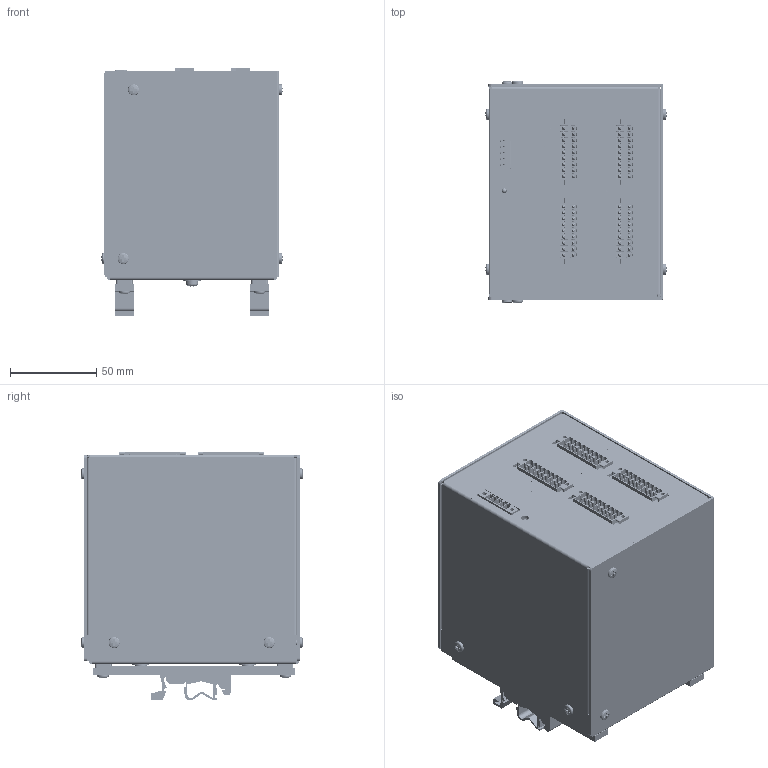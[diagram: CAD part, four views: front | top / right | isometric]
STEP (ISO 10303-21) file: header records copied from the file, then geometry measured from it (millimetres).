
FILE_DESCRIPTION (( 'STEP AP214' ), '1' );
FILE_NAME ('61G700679.STEP', '2025-12-02T09:15:17', ( '' ), ( '' ), 'SwSTEP 2.0', 'SolidWorks 2022', '' );
FILE_SCHEMA (( 'AUTOMOTIVE_DESIGN' ));
Length unit declared in the file: millimetre
Products named in the file (1): 61G700679
Bounding box: 105.22 x 129.12 x 143.7 mm (x, y, z)
Volume: 162459.4 mm3; surface area: 237577.2 mm2
Topology: 46 solids, 46 shells, 13335 faces, 36407 edges, 23675 vertices
Faces by surface type: plane 7981, bspline 2648, cylinder 1836, cone 824, torus 28, sphere 18
Entity records: 568242 total; most frequent: CARTESIAN_POINT 196490, ORIENTED_EDGE 72190, DIRECTION 51903, EDGE_CURVE 36095, LINE 24473, VECTOR 24473, VERTEX_POINT 23672, EDGE_LOOP 14355
